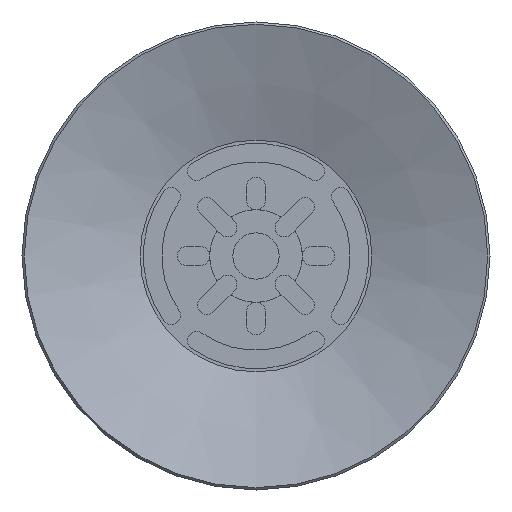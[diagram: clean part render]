
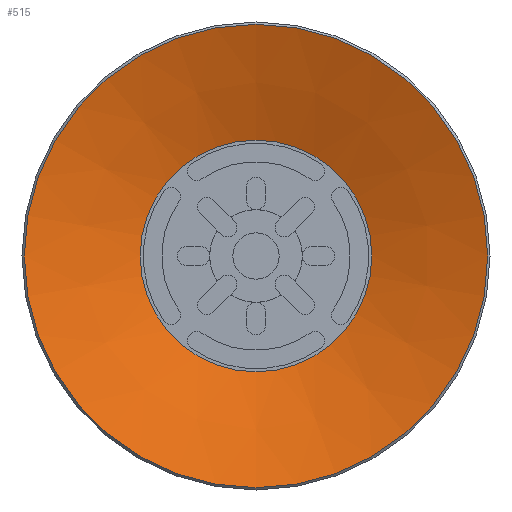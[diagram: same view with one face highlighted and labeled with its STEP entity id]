
A CAD part, front view. The second image highlights one B-rep face of the part: STEP entity #515.
In plain terms, the highlighted conical face has half-angle 70.201 degrees and reference radius 7.5 mm.
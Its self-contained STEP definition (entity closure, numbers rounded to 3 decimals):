
#515=ADVANCED_FACE('',(#850,#851),#852,.F.);
#850=FACE_BOUND('',#1256,.T.);
#851=FACE_OUTER_BOUND('',#1257,.T.);
#852=CONICAL_SURFACE('',#1258,7.5,1.225);
#1256=EDGE_LOOP('',(#2203));
#1257=EDGE_LOOP('',(#2204));
#1258=AXIS2_PLACEMENT_3D('',#2205,#2206,#2207);
#2203=ORIENTED_EDGE('',*,*,#2932,.F.);
#2204=ORIENTED_EDGE('',*,*,#2919,.T.);
#2205=CARTESIAN_POINT('',(0.0,0.0,2.7));
#2206=DIRECTION('',(0.0,0.,-1.0));
#2207=DIRECTION('',(0.0,1.0,0.));
#2919=EDGE_CURVE('',#3485,#3485,#3486,.T.);
#2932=EDGE_CURVE('',#3509,#3509,#3510,.T.);
#3485=VERTEX_POINT('',#4609);
#3486=CIRCLE('',#4610,15.0);
#3509=VERTEX_POINT('',#4641);
#3510=CIRCLE('',#4642,7.5);
#4609=CARTESIAN_POINT('',(0.0,15.0,0.));
#4610=AXIS2_PLACEMENT_3D('',#5270,#5271,#5272);
#4641=CARTESIAN_POINT('',(0.0,7.5,2.7));
#4642=AXIS2_PLACEMENT_3D('',#5293,#5294,#5295);
#5270=CARTESIAN_POINT('',(0.0,0.0,0.0));
#5271=DIRECTION('',(0.0,0.,-1.0));
#5272=DIRECTION('',(0.0,1.0,0.));
#5293=CARTESIAN_POINT('',(0.0,0.0,2.7));
#5294=DIRECTION('',(0.0,0.,-1.0));
#5295=DIRECTION('',(0.0,1.0,0.));
